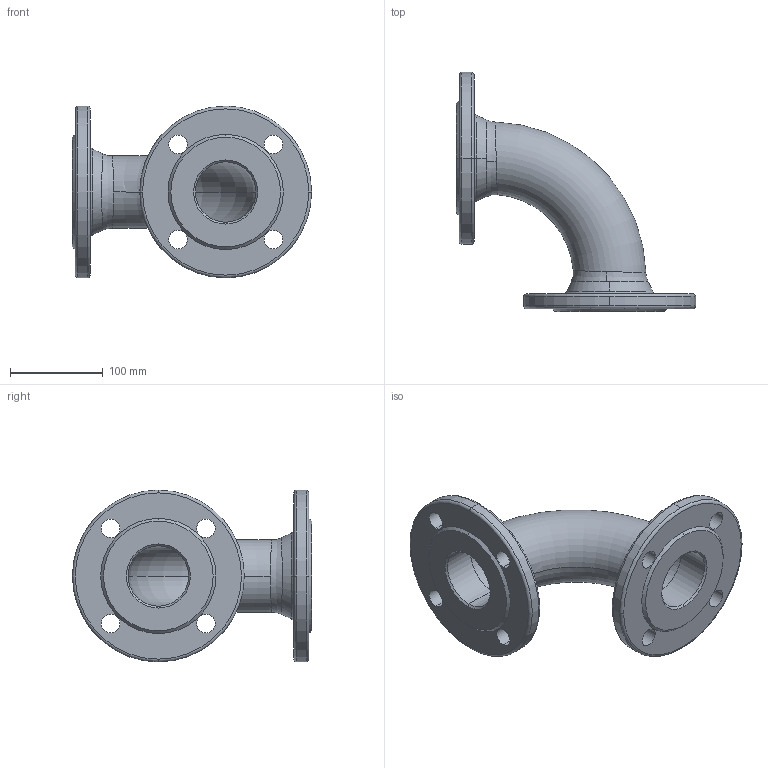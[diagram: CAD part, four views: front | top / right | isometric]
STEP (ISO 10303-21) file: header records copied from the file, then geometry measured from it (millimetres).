
FILE_DESCRIPTION (( 'STEP AP203' ), '1' );
FILE_NAME ('O_712_0610_DN65_1X_REV01.step', '2021-11-19T09:51:26', ( '' ), ( '' ), 'SwSTEP 2.0', 'SolidWorks 2019', '' );
FILE_SCHEMA (( 'CONFIG_CONTROL_DESIGN' ));
Length unit declared in the file: millimetre
Products named in the file (1): O_712_0610_DN65_1X_REV01
Bounding box: 257.5 x 257.5 x 185 mm (x, y, z)
Volume: 1147408 mm3; surface area: 221992.3 mm2
Topology: 1 solids, 1 shells, 151 faces, 413 edges, 272 vertices
Faces by surface type: cylinder 74, plane 41, torus 20, cone 12, bspline 4
Entity records: 6536 total; most frequent: CARTESIAN_POINT 2875, ORIENTED_EDGE 826, DIRECTION 629, EDGE_CURVE 413, VERTEX_POINT 272, AXIS2_PLACEMENT_3D 254, B_SPLINE_CURVE_WITH_KNOTS 186, EDGE_LOOP 177
